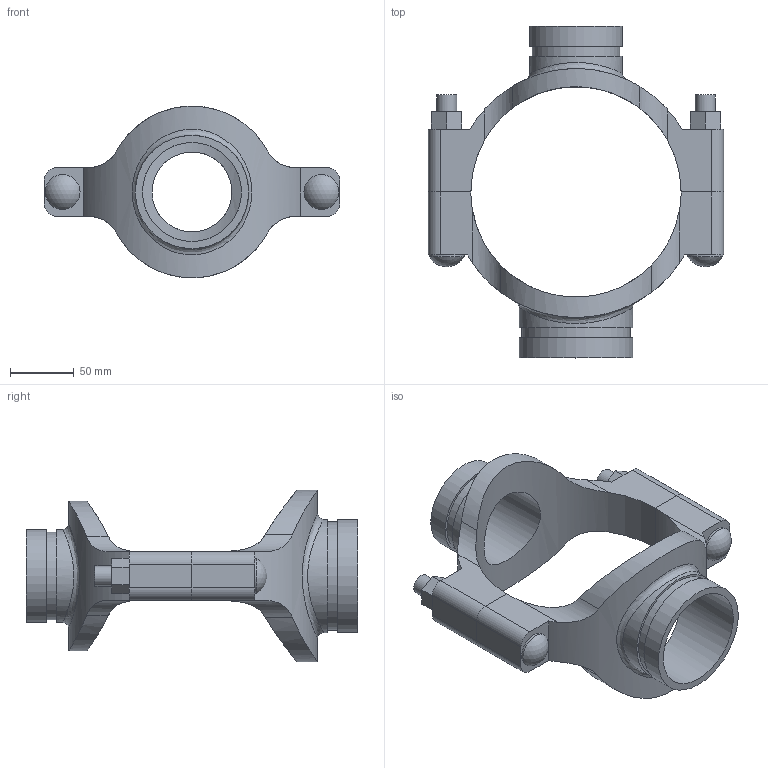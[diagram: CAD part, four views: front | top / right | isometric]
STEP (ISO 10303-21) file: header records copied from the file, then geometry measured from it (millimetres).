
FILE_DESCRIPTION(/* description */ ('VIC MECH-T BRANCH OUTLET CROSS STYLE 920N (GRVD)','CAx-IF Rec.Pracs.---Representation and Presentation of Product Manufacturing Information (PMI)---4.0---2014-10-13'),/* implementation_level */ '2;1');
FILE_NAME(/* name */ 'C:\Users\Vjadhav\AppData\Roaming\Autodesk\ApplicationPlugins\Back Up\Victaulic_IPS_Mechanical-Cross Outlet_Style 920N (OGS)\Victaulic_IPS_Mechanical-Cross Outlet_06.0 (165.1)x02.5x03.0 (150x65x80).stp',/* time_stamp */ '2020-08-06T19:45:36+05:00',/* author */ ('Vjadhav'),/* organization */ ('Victaulic'),/* preprocessor_version */ 'ST-DEVELOPER v17.2',/* originating_system */ 'Autodesk Inventor 2019',/* authorisation */ '');
FILE_SCHEMA (('AP242_MANAGED_MODEL_BASED_3D_ENGINEERING_MIM_LF { 1 0 10303 442 1 1 4 }'));
Length unit declared in the file: inch
Products named in the file (3): 920NG-06.0 (165.1)x02.5x03.0; 920G-06.0 (165.1)x02.5; 920G-06.0 (165.1)x03.0
Assembly tree (2 placements, depth 2):
  920NG-06.0 (165.1)x02.5x03.0
    920G-06.0 (165.1)x02.5
    920G-06.0 (165.1)x03.0
Bounding box: 231.9 x 260.6 x 134.87 mm (x, y, z)
Volume: 715521.7 mm3; surface area: 167286.7 mm2
Topology: 2 solids, 2 shells, 104 faces, 262 edges, 178 vertices
Faces by surface type: plane 54, cylinder 46, sphere 2, bspline 2
Full cylindrical faces by diameter (mm): 15.875 x4, 27.381 x2, 62.713 x1, 69.088 x1, 73.025 x2, 77.787 x1, 84.938 x1, 88.9 x2
Entity records: 4286 total; most frequent: CARTESIAN_POINT 1513, DIRECTION 532, ORIENTED_EDGE 524, EDGE_CURVE 262, AXIS2_PLACEMENT_3D 193, VERTEX_POINT 178, LINE 146, VECTOR 146
